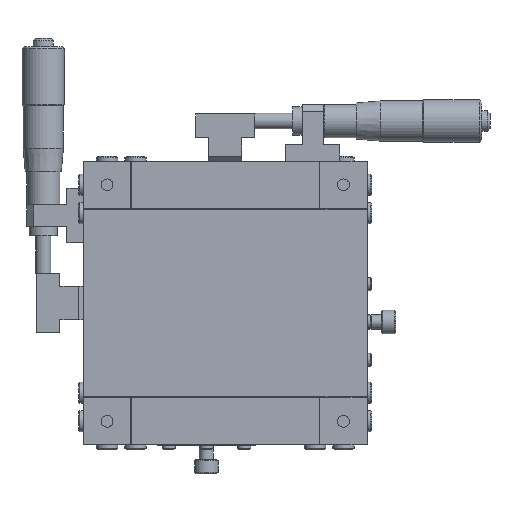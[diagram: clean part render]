
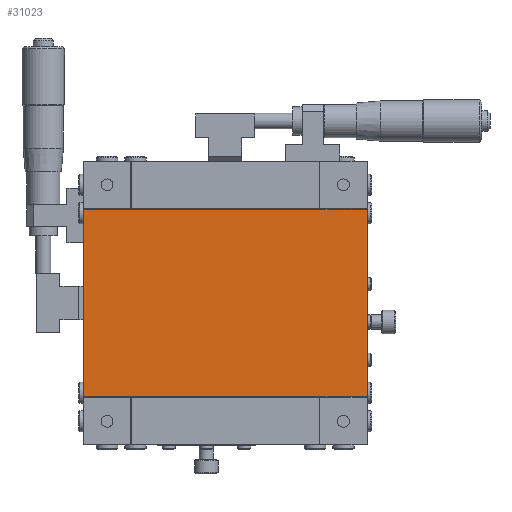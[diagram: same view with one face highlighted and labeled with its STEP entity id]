
A CAD part, front view. The second image highlights one B-rep face of the part: STEP entity #31023.
In plain terms, the highlighted planar face has unit normal (0, -1, 0).
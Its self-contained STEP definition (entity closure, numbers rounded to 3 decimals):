
#5121 = CARTESIAN_POINT ( 'NONE',  ( 60., 0.3, -39.7 ) ) ;
#5122 = DIRECTION ( 'NONE',  ( 0., 0., 1. ) ) ;
#5123 = VECTOR ( 'NONE', #5122, 1000. ) ;
#5124 = CARTESIAN_POINT ( 'NONE',  ( 60., 0.3, 0. ) ) ;
#5125 = LINE ( 'NONE', #5124, #5123 ) ;
#5126 = CARTESIAN_POINT ( 'NONE',  ( 60., 0.3, 39.7 ) ) ;
#31023 = ADVANCED_FACE ( 'NONE', ( #32244 ), #32243, .T. ) ;
#31027 = EDGE_LOOP ( 'NONE', ( #31029, #31032, #31034, #31036 ) ) ;
#31029 = ORIENTED_EDGE ( 'NONE', *, *, #31030, .F. ) ;
#31030 = EDGE_CURVE ( 'NONE', #31031, #31060, #32238, .T. ) ;
#31031 = VERTEX_POINT ( 'NONE', #32234 ) ;
#31032 = ORIENTED_EDGE ( 'NONE', *, *, #31033, .F. ) ;
#31033 = EDGE_CURVE ( 'NONE', #37493, #31031, #32233, .T. ) ;
#31034 = ORIENTED_EDGE ( 'NONE', *, *, #37492, .T. ) ;
#31036 = ORIENTED_EDGE ( 'NONE', *, *, #31062, .T. ) ;
#31060 = VERTEX_POINT ( 'NONE', #32279 ) ;
#31062 = EDGE_CURVE ( 'NONE', #37490, #31060, #32278, .T. ) ;
#32230 = DIRECTION ( 'NONE',  ( -1., 0., 0. ) ) ;
#32231 = VECTOR ( 'NONE', #32230, 1000. ) ;
#32232 = CARTESIAN_POINT ( 'NONE',  ( 60., 0.3, -39.7 ) ) ;
#32233 = LINE ( 'NONE', #32232, #32231 ) ;
#32234 = CARTESIAN_POINT ( 'NONE',  ( -60., 0.3, -39.7 ) ) ;
#32235 = DIRECTION ( 'NONE',  ( 0., 0., 1. ) ) ;
#32236 = VECTOR ( 'NONE', #32235, 1000. ) ;
#32237 = CARTESIAN_POINT ( 'NONE',  ( -60., 0.3, 0. ) ) ;
#32238 = LINE ( 'NONE', #32237, #32236 ) ;
#32239 = DIRECTION ( 'NONE',  ( 0., 0., -1. ) ) ;
#32240 = DIRECTION ( 'NONE',  ( 0., -1., 0. ) ) ;
#32241 = CARTESIAN_POINT ( 'NONE',  ( 60., 0.3, 0. ) ) ;
#32242 = AXIS2_PLACEMENT_3D ( 'NONE', #32241, #32240, #32239 ) ;
#32243 = PLANE ( 'NONE',  #32242 ) ;
#32244 = FACE_OUTER_BOUND ( 'NONE', #31027, .T. ) ;
#32275 = DIRECTION ( 'NONE',  ( -1., 0., 0. ) ) ;
#32276 = VECTOR ( 'NONE', #32275, 1000. ) ;
#32277 = CARTESIAN_POINT ( 'NONE',  ( 60., 0.3, 39.7 ) ) ;
#32278 = LINE ( 'NONE', #32277, #32276 ) ;
#32279 = CARTESIAN_POINT ( 'NONE',  ( -60., 0.3, 39.7 ) ) ;
#37490 = VERTEX_POINT ( 'NONE', #5126 ) ;
#37492 = EDGE_CURVE ( 'NONE', #37493, #37490, #5125, .T. ) ;
#37493 = VERTEX_POINT ( 'NONE', #5121 ) ;
